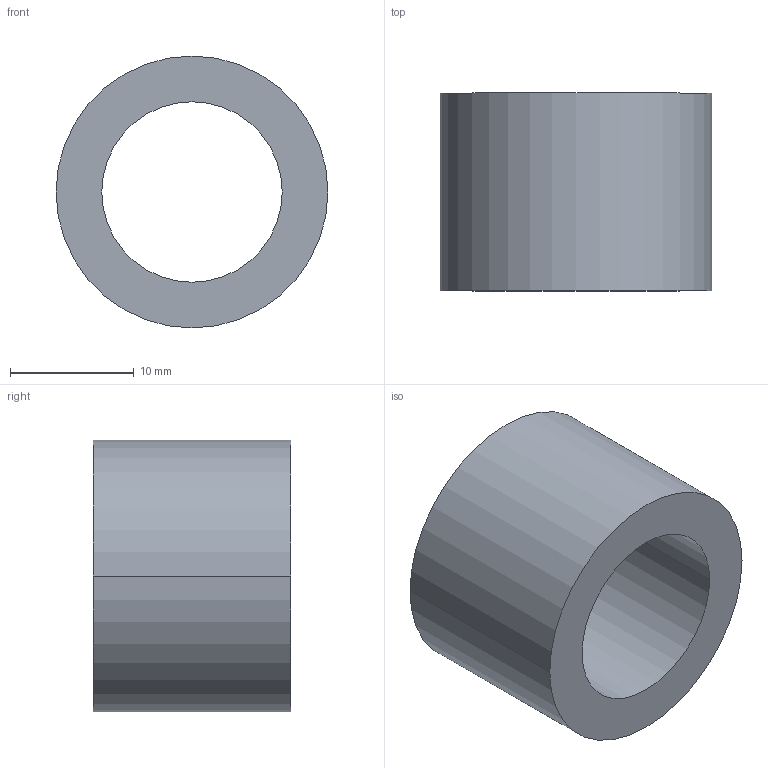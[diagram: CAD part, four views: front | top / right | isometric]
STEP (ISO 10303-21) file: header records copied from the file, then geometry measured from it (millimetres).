
FILE_DESCRIPTION (( 'STEP AP203' ), '1' );
FILE_NAME ('30800.WPP22F14.6.step', '2019-01-23T22:44:08', ( '' ), ( '' ), 'SwSTEP 2.0', 'SolidWorks 2017', '' );
FILE_SCHEMA (( 'CONFIG_CONTROL_DESIGN' ));
Length unit declared in the file: millimetre
Products named in the file (1): 30800.WPP22F14.6
Bounding box: 22 x 16 x 22 mm (x, y, z)
Volume: 3361.7 mm3; surface area: 2227.6 mm2
Topology: 1 solids, 1 shells, 8 faces, 16 edges, 10 vertices
Faces by surface type: cylinder 4, torus 2, plane 2
Entity records: 297 total; most frequent: DIRECTION 46, CARTESIAN_POINT 35, ORIENTED_EDGE 32, AXIS2_PLACEMENT_3D 21, EDGE_CURVE 16, CIRCLE 12, EDGE_LOOP 10, VERTEX_POINT 10
